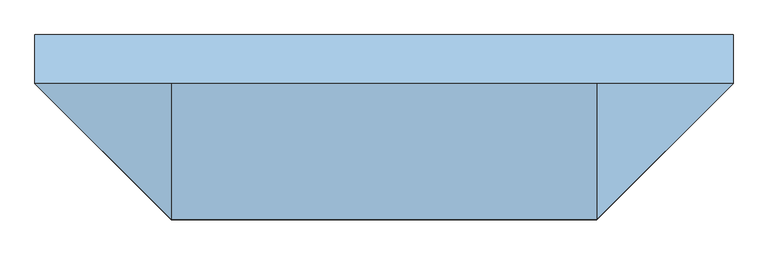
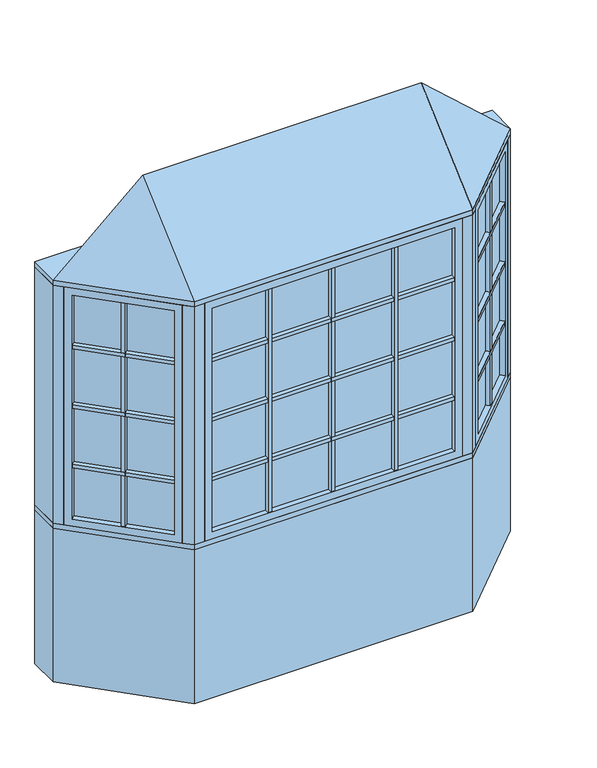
"""IFC4 building model written with IfcOpenShell, lengths in millimetres: window geometry, Pollard_Windows_Tudor Casement Bows and Bays : AML-BAY 45 AFR0512-12-500_GC."""

from ifc_helpers import new_model, si_unit, frame, origin, origin_with_axes, place, context, project, spatial, polyline, outline, extrude, faceted_brep, source, transform, mapped, element, save


def window_79af763f(model_context):
    return source(origin(), model_context, "Body", "SolidModel", [
        extrude(outline(polyline([(722.8614193, -437.1108753), (707.3050701, -421.5545261), (1015.116171, -113.7434252), (1030.6725202, -129.2997743), (722.8614193, -437.1108753)])), frame((0.0, 0.0, 1390.998), z_axis=(0.0, 0.0, 1.0), x_axis=(1.0, 0.0, 0.0)), (0.0, 0.0, 1.0), 18.0),
        extrude(outline(polyline([(703.7129677, -417.9624236), (688.1566185, -402.4060744), (995.9677194, -94.5949735), (1011.5240686, -110.1513227), (703.7129677, -417.9624236)])), frame((0.0, 0.0, 1390.998), z_axis=(0.0, 0.0, 1.0), x_axis=(1.0, 0.0, 0.0)), (0.0, 0.0, 1.0), 18.0),
        extrude(outline(polyline([(722.8614193, -437.1108753), (707.3050701, -421.5545261), (1015.116171, -113.7434252), (1030.6725202, -129.2997743), (722.8614193, -437.1108753)])), frame((0.0, 0.0, 1090.998), z_axis=(0.0, 0.0, 1.0), x_axis=(1.0, 0.0, 0.0)), (0.0, 0.0, 1.0), 18.0),
        extrude(outline(polyline([(703.7129677, -417.9624236), (688.1566185, -402.4060744), (995.9677194, -94.5949735), (1011.5240686, -110.1513227), (703.7129677, -417.9624236)])), frame((0.0, 0.0, 1090.998), z_axis=(0.0, 0.0, 1.0), x_axis=(1.0, 0.0, 0.0)), (0.0, 0.0, 1.0), 18.0),
        extrude(outline(polyline([(722.8614193, -437.1108753), (707.3050701, -421.5545261), (1015.116171, -113.7434252), (1030.6725202, -129.2997743), (722.8614193, -437.1108753)])), frame((0.0, 0.0, 1390.998), z_axis=(0.0, 0.0, 1.0), x_axis=(1.0, 0.0, 0.0)), (0.0, 0.0, 1.0), 18.0),
        extrude(outline(polyline([(703.7129677, -417.9624236), (688.1566185, -402.4060744), (995.9677194, -94.5949735), (1011.5240686, -110.1513227), (703.7129677, -417.9624236)])), frame((0.0, 0.0, 1390.998), z_axis=(0.0, 0.0, 1.0), x_axis=(1.0, 0.0, 0.0)), (0.0, 0.0, 1.0), 18.0),
        extrude(outline(polyline([(722.8614193, -437.1108753), (707.3050701, -421.5545261), (1015.116171, -113.7434252), (1030.6725202, -129.2997743), (722.8614193, -437.1108753)])), frame((0.0, 0.0, 1390.998), z_axis=(0.0, 0.0, 1.0), x_axis=(1.0, 0.0, 0.0)), (0.0, 0.0, 1.0), 18.0),
        extrude(outline(polyline([(703.7129677, -417.9624236), (688.1566185, -402.4060744), (995.9677194, -94.5949735), (1011.5240686, -110.1513227), (703.7129677, -417.9624236)])), frame((0.0, 0.0, 1390.998), z_axis=(0.0, 0.0, 1.0), x_axis=(1.0, 0.0, 0.0)), (0.0, 0.0, 1.0), 18.0),
        extrude(outline(polyline([(722.8614193, -437.1108753), (707.3050701, -421.5545261), (1015.116171, -113.7434252), (1030.6725202, -129.2997743), (722.8614193, -437.1108753)])), frame((0.0, 0.0, 1690.998), z_axis=(0.0, 0.0, 1.0), x_axis=(1.0, 0.0, 0.0)), (0.0, 0.0, 1.0), 18.0),
        extrude(outline(polyline([(703.7129677, -417.9624236), (688.1566185, -402.4060744), (995.9677194, -94.5949735), (1011.5240686, -110.1513227), (703.7129677, -417.9624236)])), frame((0.0, 0.0, 1690.998), z_axis=(0.0, 0.0, 1.0), x_axis=(1.0, 0.0, 0.0)), (0.0, 0.0, 1.0), 18.0),
        extrude(outline(polyline([(867.5745816, -261.2850146), (883.1309308, -276.8413638), (870.4030087, -289.5692858), (854.8466595, -274.0129366), (867.5745816, -261.2850146)])), frame((0.0, 0.0, 835.8628), z_axis=(0.0, 0.0, 1.0), x_axis=(1.0, 0.0, 0.0)), (0.0, 0.0, 1.0), 1128.2704),
        extrude(outline(polyline([(863.9824791, -257.6929121), (851.2545571, -270.4208342), (835.6982079, -254.864485), (848.42613, -242.1365629), (863.9824791, -257.6929121)])), frame((0.0, 0.0, 835.8628), z_axis=(0.0, 0.0, 1.0), x_axis=(1.0, 0.0, 0.0)), (0.0, 0.0, 1.0), 1128.2704),
        extrude(outline(polyline([(1024.0964271, -104.763169), (698.324814, -430.5347822), (694.7327115, -426.9426797), (1020.5043247, -101.1710666), (1024.0964271, -104.763169)])), frame((0.0, 0.0, 823.1628), z_axis=(0.0, 0.0, 1.0), x_axis=(1.0, 0.0, 0.0)), (0.0, 0.0, 1.0), 1153.6704),
        faceted_brep([(1015.116171, -113.7434252, 835.8628), (1033.0766833, -131.7039374, 835.8628), (1033.0766833, -131.7039374, 1964.1332), (1015.116171, -113.7434252, 1964.1332), (1020.5043247, -101.1710666, 823.1628), (1024.0964271, -104.763169, 823.1628), (1024.0964271, -104.763169, 1976.8332), (1020.5043247, -101.1710666, 1976.8332), (993.5635563, -92.1908105, 835.8628), (1011.5240686, -110.1513227, 835.8628), (1011.5240686, -110.1513227, 1964.1332), (993.5635563, -92.1908105, 1964.1332), (1058.4369265, -106.3436941, 799.998), (1018.9237996, -66.8305672, 799.998), (1018.9237996, -66.8305672, 1999.998), (1058.4369265, -106.3436941, 1999.998), (725.2655823, -439.5150383, 1964.1332), (707.3050701, -421.5545261, 1964.1332), (698.324814, -430.5347822, 1976.8332), (694.7327115, -426.9426797, 1976.8332), (703.7129677, -417.9624236, 1964.1332), (685.7524554, -400.0019114, 1964.1332), (660.3922121, -425.3621547, 1999.998), (699.9053391, -464.8752816, 1999.998), (725.2655823, -439.5150383, 835.8628), (707.3050701, -421.5545261, 835.8628), (698.324814, -430.5347822, 823.1628), (694.7327115, -426.9426797, 823.1628), (703.7129677, -417.9624236, 835.8628), (685.7524554, -400.0019114, 835.8628), (660.3922121, -425.3621547, 799.998), (699.9053391, -464.8752816, 799.998)], [[[0, 1, 2, 3]], [[4, 5, 6, 7]], [[8, 9, 10, 11]], [[12, 13, 14, 15]], [[3, 2, 16, 17]], [[7, 6, 18, 19]], [[11, 10, 20, 21]], [[15, 14, 22, 23]], [[17, 16, 24, 25]], [[19, 18, 26, 27]], [[21, 20, 28, 29]], [[23, 22, 30, 31]], [[25, 24, 1, 0]], [[5, 26, 18, 6], [3, 17, 25, 0]], [[27, 26, 5, 4]], [[7, 19, 27, 4], [9, 28, 20, 10]], [[29, 28, 9, 8]], [[13, 30, 22, 14], [11, 21, 29, 8]], [[31, 30, 13, 12]], [[15, 23, 31, 12], [1, 24, 16, 2]]]),
        extrude(outline(polyline([(309.1927, -474.8306207), (309.1927, -496.8306207), (291.1927, -496.8306207), (291.1927, -474.8306207), (309.1927, -474.8306207)])), frame((0.0, 0.0, 835.8628), z_axis=(0.0, 0.0, 1.0), x_axis=(1.0, 0.0, 0.0)), (0.0, 0.0, 1.0), 1128.2704),
        extrude(outline(polyline([(309.1927, -469.7506207), (291.1927, -469.7506207), (291.1927, -447.7506207), (309.1927, -447.7506207), (309.1927, -469.7506207)])), frame((0.0, 0.0, 835.8628), z_axis=(0.0, 0.0, 1.0), x_axis=(1.0, 0.0, 0.0)), (0.0, 0.0, 1.0), 1128.2704),
        extrude(outline(polyline([(-291.1927, -474.8306207), (-291.1927, -496.8306207), (-309.1927, -496.8306207), (-309.1927, -474.8306207), (-291.1927, -474.8306207)])), frame((0.0, 0.0, 835.8628), z_axis=(0.0, 0.0, 1.0), x_axis=(1.0, 0.0, 0.0)), (0.0, 0.0, 1.0), 1128.2704),
        extrude(outline(polyline([(-291.1927, -469.7506207), (-309.1927, -469.7506207), (-309.1927, -447.7506207), (-291.1927, -447.7506207), (-291.1927, -469.7506207)])), frame((0.0, 0.0, 835.8628), z_axis=(0.0, 0.0, 1.0), x_axis=(1.0, 0.0, 0.0)), (0.0, 0.0, 1.0), 1128.2704),
        extrude(outline(polyline([(-578.6852, -496.8306207), (-578.6852, -474.8306207), (578.6852, -474.8306207), (578.6852, -496.8306207), (-578.6852, -496.8306207)])), frame((0.0, 0.0, 1090.998), z_axis=(0.0, 0.0, 1.0), x_axis=(1.0, 0.0, 0.0)), (0.0, 0.0, 1.0), 18.0),
        extrude(outline(polyline([(-578.6852, -469.7506207), (-578.6852, -447.7506207), (578.6852, -447.7506207), (578.6852, -469.7506207), (-578.6852, -469.7506207)])), frame((0.0, 0.0, 1090.998), z_axis=(0.0, 0.0, 1.0), x_axis=(1.0, 0.0, 0.0)), (0.0, 0.0, 1.0), 18.0),
        extrude(outline(polyline([(-578.6852, -496.8306207), (-578.6852, -474.8306207), (578.6852, -474.8306207), (578.6852, -496.8306207), (-578.6852, -496.8306207)])), frame((0.0, 0.0, 1390.998), z_axis=(0.0, 0.0, 1.0), x_axis=(1.0, 0.0, 0.0)), (0.0, 0.0, 1.0), 18.0),
        extrude(outline(polyline([(-578.6852, -469.7506207), (-578.6852, -447.7506207), (578.6852, -447.7506207), (578.6852, -469.7506207), (-578.6852, -469.7506207)])), frame((0.0, 0.0, 1390.998), z_axis=(0.0, 0.0, 1.0), x_axis=(1.0, 0.0, 0.0)), (0.0, 0.0, 1.0), 18.0),
        extrude(outline(polyline([(-578.6852, -496.8306207), (-578.6852, -474.8306207), (578.6852, -474.8306207), (578.6852, -496.8306207), (-578.6852, -496.8306207)])), frame((0.0, 0.0, 1390.998), z_axis=(0.0, 0.0, 1.0), x_axis=(1.0, 0.0, 0.0)), (0.0, 0.0, 1.0), 18.0),
        extrude(outline(polyline([(-578.6852, -469.7506207), (-578.6852, -447.7506207), (578.6852, -447.7506207), (578.6852, -469.7506207), (-578.6852, -469.7506207)])), frame((0.0, 0.0, 1390.998), z_axis=(0.0, 0.0, 1.0), x_axis=(1.0, 0.0, 0.0)), (0.0, 0.0, 1.0), 18.0),
        extrude(outline(polyline([(-578.6852, -496.8306207), (-578.6852, -474.8306207), (578.6852, -474.8306207), (578.6852, -496.8306207), (-578.6852, -496.8306207)])), frame((0.0, 0.0, 1390.998), z_axis=(0.0, 0.0, 1.0), x_axis=(1.0, 0.0, 0.0)), (0.0, 0.0, 1.0), 18.0),
        extrude(outline(polyline([(-578.6852, -469.7506207), (-578.6852, -447.7506207), (578.6852, -447.7506207), (578.6852, -469.7506207), (-578.6852, -469.7506207)])), frame((0.0, 0.0, 1390.998), z_axis=(0.0, 0.0, 1.0), x_axis=(1.0, 0.0, 0.0)), (0.0, 0.0, 1.0), 18.0),
        extrude(outline(polyline([(-1030.6725202, -129.2997743), (-1015.116171, -113.7434252), (-707.3050701, -421.5545261), (-722.8614193, -437.1108753), (-1030.6725202, -129.2997743)])), frame((0.0, 0.0, 1090.998), z_axis=(0.0, 0.0, 1.0), x_axis=(1.0, 0.0, 0.0)), (0.0, 0.0, 1.0), 18.0),
        extrude(outline(polyline([(-1011.5240686, -110.1513227), (-995.9677194, -94.5949735), (-688.1566185, -402.4060744), (-703.7129677, -417.9624236), (-1011.5240686, -110.1513227)])), frame((0.0, 0.0, 1090.998), z_axis=(0.0, 0.0, 1.0), x_axis=(1.0, 0.0, 0.0)), (0.0, 0.0, 1.0), 18.0),
        extrude(outline(polyline([(-1030.6725202, -129.2997743), (-1015.116171, -113.7434252), (-707.3050701, -421.5545261), (-722.8614193, -437.1108753), (-1030.6725202, -129.2997743)])), frame((0.0, 0.0, 1390.998), z_axis=(0.0, 0.0, 1.0), x_axis=(1.0, 0.0, 0.0)), (0.0, 0.0, 1.0), 18.0),
        extrude(outline(polyline([(-1011.5240686, -110.1513227), (-995.9677194, -94.5949735), (-688.1566185, -402.4060744), (-703.7129677, -417.9624236), (-1011.5240686, -110.1513227)])), frame((0.0, 0.0, 1390.998), z_axis=(0.0, 0.0, 1.0), x_axis=(1.0, 0.0, 0.0)), (0.0, 0.0, 1.0), 18.0),
        extrude(outline(polyline([(-1030.6725202, -129.2997743), (-1015.116171, -113.7434252), (-707.3050701, -421.5545261), (-722.8614193, -437.1108753), (-1030.6725202, -129.2997743)])), frame((0.0, 0.0, 1390.998), z_axis=(0.0, 0.0, 1.0), x_axis=(1.0, 0.0, 0.0)), (0.0, 0.0, 1.0), 18.0),
        extrude(outline(polyline([(-1011.5240686, -110.1513227), (-995.9677194, -94.5949735), (-688.1566185, -402.4060744), (-703.7129677, -417.9624236), (-1011.5240686, -110.1513227)])), frame((0.0, 0.0, 1390.998), z_axis=(0.0, 0.0, 1.0), x_axis=(1.0, 0.0, 0.0)), (0.0, 0.0, 1.0), 18.0),
        extrude(outline(polyline([(-1030.6725202, -129.2997743), (-1015.116171, -113.7434252), (-707.3050701, -421.5545261), (-722.8614193, -437.1108753), (-1030.6725202, -129.2997743)])), frame((0.0, 0.0, 1390.998), z_axis=(0.0, 0.0, 1.0), x_axis=(1.0, 0.0, 0.0)), (0.0, 0.0, 1.0), 18.0),
        extrude(outline(polyline([(-1011.5240686, -110.1513227), (-995.9677194, -94.5949735), (-688.1566185, -402.4060744), (-703.7129677, -417.9624236), (-1011.5240686, -110.1513227)])), frame((0.0, 0.0, 1390.998), z_axis=(0.0, 0.0, 1.0), x_axis=(1.0, 0.0, 0.0)), (0.0, 0.0, 1.0), 18.0),
        extrude(outline(polyline([(-1030.6725202, -129.2997743), (-1015.116171, -113.7434252), (-707.3050701, -421.5545261), (-722.8614193, -437.1108753), (-1030.6725202, -129.2997743)])), frame((0.0, 0.0, 1690.998), z_axis=(0.0, 0.0, 1.0), x_axis=(1.0, 0.0, 0.0)), (0.0, 0.0, 1.0), 18.0),
        extrude(outline(polyline([(-1011.5240686, -110.1513227), (-995.9677194, -94.5949735), (-688.1566185, -402.4060744), (-703.7129677, -417.9624236), (-1011.5240686, -110.1513227)])), frame((0.0, 0.0, 1690.998), z_axis=(0.0, 0.0, 1.0), x_axis=(1.0, 0.0, 0.0)), (0.0, 0.0, 1.0), 18.0),
        extrude(outline(polyline([(-578.6852, -496.8306207), (-578.6852, -474.8306207), (578.6852, -474.8306207), (578.6852, -496.8306207), (-578.6852, -496.8306207)])), frame((0.0, 0.0, 1690.998), z_axis=(0.0, 0.0, 1.0), x_axis=(1.0, 0.0, 0.0)), (0.0, 0.0, 1.0), 18.0),
        extrude(outline(polyline([(-578.6852, -469.7506207), (-578.6852, -447.7506207), (578.6852, -447.7506207), (578.6852, -469.7506207), (-578.6852, -469.7506207)])), frame((0.0, 0.0, 1690.998), z_axis=(0.0, 0.0, 1.0), x_axis=(1.0, 0.0, 0.0)), (0.0, 0.0, 1.0), 18.0),
        extrude(outline(polyline([(-854.8466595, -274.0129366), (-870.4030087, -289.5692858), (-883.1309308, -276.8413638), (-867.5745816, -261.2850146), (-854.8466595, -274.0129366)])), frame((0.0, 0.0, 835.8628), z_axis=(0.0, 0.0, 1.0), x_axis=(1.0, 0.0, 0.0)), (0.0, 0.0, 1.0), 1128.2704),
        extrude(outline(polyline([(-851.2545571, -270.4208342), (-863.9824791, -257.6929121), (-848.42613, -242.1365629), (-835.6982079, -254.864485), (-851.2545571, -270.4208342)])), frame((0.0, 0.0, 835.8628), z_axis=(0.0, 0.0, 1.0), x_axis=(1.0, 0.0, 0.0)), (0.0, 0.0, 1.0), 1128.2704),
        extrude(outline(polyline([(9.0, -474.8306207), (9.0, -496.8306207), (-9.0, -496.8306207), (-9.0, -474.8306207), (9.0, -474.8306207)])), frame((0.0, 0.0, 835.8628), z_axis=(0.0, 0.0, 1.0), x_axis=(1.0, 0.0, 0.0)), (0.0, 0.0, 1.0), 1128.2704),
        extrude(outline(polyline([(9.0, -469.7506207), (-9.0, -469.7506207), (-9.0, -447.7506207), (9.0, -447.7506207), (9.0, -469.7506207)])), frame((0.0, 0.0, 835.8628), z_axis=(0.0, 0.0, 1.0), x_axis=(1.0, 0.0, 0.0)), (0.0, 0.0, 1.0), 1128.2704),
        extrude(outline(polyline([(-698.324814, -430.5347822), (-1024.0964271, -104.763169), (-1020.5043247, -101.1710666), (-694.7327115, -426.9426797), (-698.324814, -430.5347822)])), frame((0.0, 0.0, 823.1628), z_axis=(0.0, 0.0, 1.0), x_axis=(1.0, 0.0, 0.0)), (0.0, 0.0, 1.0), 1153.6704),
        faceted_brep([(-703.7129677, -417.9624236, 1964.1332), (-685.7524554, -400.0019114, 1964.1332), (-685.7524554, -400.0019114, 835.8628), (-703.7129677, -417.9624236, 835.8628), (-698.324814, -430.5347822, 1976.8332), (-694.7327115, -426.9426797, 1976.8332), (-694.7327115, -426.9426797, 823.1628), (-698.324814, -430.5347822, 823.1628), (-725.2655823, -439.5150383, 1964.1332), (-707.3050701, -421.5545261, 1964.1332), (-707.3050701, -421.5545261, 835.8628), (-725.2655823, -439.5150383, 835.8628), (-660.3922121, -425.3621547, 1999.998), (-699.9053391, -464.8752816, 1999.998), (-699.9053391, -464.8752816, 799.998), (-660.3922121, -425.3621547, 799.998), (-993.5635563, -92.1908105, 835.8628), (-1011.5240686, -110.1513227, 835.8628), (-1020.5043247, -101.1710666, 823.1628), (-1024.0964271, -104.763169, 823.1628), (-1015.116171, -113.7434252, 835.8628), (-1033.0766833, -131.7039374, 835.8628), (-1058.4369265, -106.3436941, 799.998), (-1018.9237996, -66.8305672, 799.998), (-993.5635563, -92.1908105, 1964.1332), (-1011.5240686, -110.1513227, 1964.1332), (-1020.5043247, -101.1710666, 1976.8332), (-1024.0964271, -104.763169, 1976.8332), (-1015.116171, -113.7434252, 1964.1332), (-1033.0766833, -131.7039374, 1964.1332), (-1058.4369265, -106.3436941, 1999.998), (-1018.9237996, -66.8305672, 1999.998)], [[[0, 1, 2, 3]], [[4, 5, 6, 7]], [[8, 9, 10, 11]], [[12, 13, 14, 15]], [[3, 2, 16, 17]], [[7, 6, 18, 19]], [[11, 10, 20, 21]], [[15, 14, 22, 23]], [[17, 16, 24, 25]], [[19, 18, 26, 27]], [[21, 20, 28, 29]], [[23, 22, 30, 31]], [[15, 23, 31, 12], [1, 24, 16, 2]], [[25, 24, 1, 0]], [[5, 26, 18, 6], [3, 17, 25, 0]], [[27, 26, 5, 4]], [[7, 19, 27, 4], [9, 28, 20, 10]], [[29, 28, 9, 8]], [[13, 30, 22, 14], [11, 21, 29, 8]], [[31, 30, 13, 12]]]),
        extrude(outline(polyline([(591.3852, -474.8306207), (-591.3852, -474.8306207), (-591.3852, -469.7506207), (591.3852, -469.7506207), (591.3852, -474.8306207)])), frame((0.0, 0.0, 823.1628), z_axis=(0.0, 0.0, 1.0), x_axis=(1.0, 0.0, 0.0)), (0.0, 0.0, 1.0), 1153.6704),
        faceted_brep([(578.6852, -474.8306207, 835.8628), (578.6852, -500.2306207, 835.8628), (578.6852, -500.2306207, 1964.1332), (578.6852, -474.8306207, 1964.1332), (591.3852, -469.7506207, 823.1628), (591.3852, -474.8306207, 823.1628), (591.3852, -474.8306207, 1976.8332), (591.3852, -469.7506207, 1976.8332), (578.6852, -444.3506207, 835.8628), (578.6852, -469.7506207, 835.8628), (578.6852, -469.7506207, 1964.1332), (578.6852, -444.3506207, 1964.1332), (614.55, -500.2306207, 799.998), (614.55, -444.3506207, 799.998), (614.55, -444.3506207, 1999.998), (614.55, -500.2306207, 1999.998), (-578.6852, -500.2306207, 1964.1332), (-578.6852, -474.8306207, 1964.1332), (-591.3852, -474.8306207, 1976.8332), (-591.3852, -469.7506207, 1976.8332), (-578.6852, -469.7506207, 1964.1332), (-578.6852, -444.3506207, 1964.1332), (-614.55, -444.3506207, 1999.998), (-614.55, -500.2306207, 1999.998), (-578.6852, -500.2306207, 835.8628), (-578.6852, -474.8306207, 835.8628), (-591.3852, -474.8306207, 823.1628), (-591.3852, -469.7506207, 823.1628), (-578.6852, -469.7506207, 835.8628), (-578.6852, -444.3506207, 835.8628), (-614.55, -444.3506207, 799.998), (-614.55, -500.2306207, 799.998)], [[[0, 1, 2, 3]], [[4, 5, 6, 7]], [[8, 9, 10, 11]], [[12, 13, 14, 15]], [[3, 2, 16, 17]], [[7, 6, 18, 19]], [[11, 10, 20, 21]], [[15, 14, 22, 23]], [[17, 16, 24, 25]], [[19, 18, 26, 27]], [[21, 20, 28, 29]], [[23, 22, 30, 31]], [[15, 23, 31, 12], [1, 24, 16, 2]], [[25, 24, 1, 0]], [[5, 26, 18, 6], [3, 17, 25, 0]], [[27, 26, 5, 4]], [[7, 19, 27, 4], [9, 28, 20, 10]], [[29, 28, 9, 8]], [[13, 30, 22, 14], [11, 21, 29, 8]], [[31, 30, 13, 12]]]),
        faceted_brep([(1090.0, -74.7806207, 2025.398), (664.55, -500.2306207, 2025.398), (-664.55, -500.2306207, 2025.398), (-1090.0, -74.7806207, 2025.398), (-664.55, -74.7806207, 2406.398), (664.55, -74.7806207, 2406.398)], [[[0, 1, 2, 3]], [[3, 2, 4]], [[2, 1, 5, 4]], [[1, 0, 5]], [[0, 3, 4, 5]]]),
        extrude(outline(polyline([(-1090.0, 77.6193793), (1090.0, 77.6193793), (1090.0, -74.7806207), (664.55, -500.2306207), (-664.55, -500.2306207), (-1090.0, -74.7806207), (-1090.0, 77.6193793)])), frame((0.0, 0.0, 1999.998), z_axis=(0.0, 0.0, 1.0), x_axis=(1.0, 0.0, 0.0)), (0.0, 0.0, 1.0), 25.4),
        extrude(outline(polyline([(-1090.0, -74.7806207), (-1090.0, 77.6193793), (-1026.8738531, 77.6193793), (-1026.8738531, -74.7806207), (-1058.4369265, -106.3436941), (-1090.0, -74.7806207)])), frame((0.0, 0.0, 799.998), z_axis=(0.0, 0.0, 1.0), x_axis=(1.0, 0.0, 0.0)), (0.0, 0.0, 1.0), 1200.0),
        extrude(outline(polyline([(1090.0, 77.6193793), (1090.0, -74.7806207), (1058.4369265, -106.3436941), (1026.8738531, -74.7806207), (1026.8738531, 77.6193793), (1090.0, 77.6193793)])), frame((0.0, 0.0, 799.998), z_axis=(0.0, 0.0, 1.0), x_axis=(1.0, 0.0, 0.0)), (0.0, 0.0, 1.0), 1200.0),
        extrude(outline(polyline([(664.55, -500.2306207), (614.55, -500.2306207), (614.55, -450.2306207), (643.8393219, -450.2306207), (664.55, -429.5199425), (699.9053391, -464.8752816), (664.55, -500.2306207)])), frame((0.0, 0.0, 799.998), z_axis=(0.0, 0.0, 1.0), x_axis=(1.0, 0.0, 0.0)), (0.0, 0.0, 1.0), 1200.0),
        extrude(outline(polyline([(-664.55, -500.2306207), (-699.9053391, -464.8752816), (-664.55, -429.5199425), (-643.8393219, -450.2306207), (-614.55, -450.2306207), (-614.55, -500.2306207), (-664.55, -500.2306207)])), frame((0.0, 0.0, 799.998), z_axis=(0.0, 0.0, 1.0), x_axis=(1.0, 0.0, 0.0)), (0.0, 0.0, 1.0), 1200.0),
        extrude(outline(polyline([(-664.55, -500.2306207), (-1090.0, -74.7806207), (-1090.0, 77.6193793), (-1026.8738531, 77.6193793), (-601.4238531, -347.8306207), (601.4238531, -347.8306207), (1026.8738531, 77.6193793), (1090.0, 77.6193793), (1090.0, -74.7806207), (664.55, -500.2306207), (-664.55, -500.2306207)])), frame((0.0, 0.0, 774.598), z_axis=(0.0, 0.0, 1.0), x_axis=(1.0, 0.0, 0.0)), (0.0, 0.0, 1.0), 25.4),
        extrude(outline(polyline([(-1090.0, -74.7806207), (-1090.0, 77.6193793), (-1026.8738531, 77.6193793), (-601.4238531, -347.8306207), (601.4238531, -347.8306207), (1026.8738531, 77.6193793), (1090.0, 77.6193793), (1090.0, -74.7806207), (664.55, -500.2306207), (-664.55, -500.2306207), (-1090.0, -74.7806207)])), origin_with_axes(), (0.0, 0.0, 1.0), 774.598),
    ])


if __name__ == "__main__":
    model = new_model("IFC4")
    model_context = context("Model", 3, world=origin())
    ifc_project = project(units=[si_unit("LENGTHUNIT", "METRE", prefix="MILLI")], contexts=[model_context])
    site = spatial("IfcSite", under=ifc_project)
    building = spatial("IfcBuilding", under=site)
    placement = place(None, origin())
    window_shape = window_79af763f(model_context)
    element("IfcWindow", 1, ObjectType="Pollard_Windows_Tudor Casement Bows and Bays : AML-BAY 45 AFR0512-12-500_GC", at=placement, inside=building, context=model_context, shape_type="MappedRepresentation", body=[
        mapped(window_shape, transform((0.0, 0.0, 0.0), x_axis=(1.0, 0.0, 0.0), y_axis=(0.0, 1.0, 0.0), z_axis=(0.0, 0.0, 1.0))),
    ])
    save(model, "model.ifc")
